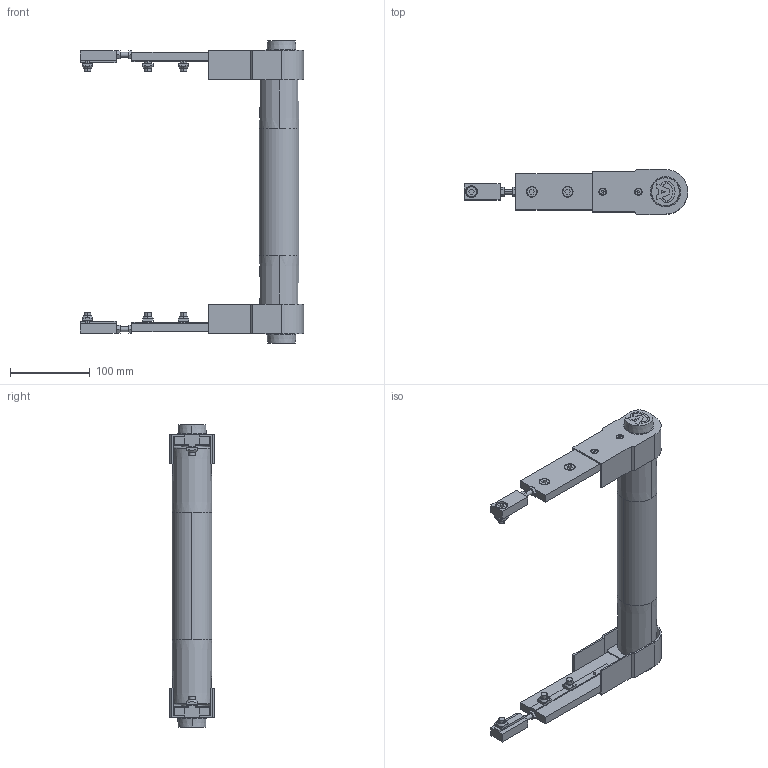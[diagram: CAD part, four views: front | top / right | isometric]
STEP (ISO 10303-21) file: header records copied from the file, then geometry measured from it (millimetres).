
FILE_DESCRIPTION (( 'STEP AP203' ), '1' );
FILE_NAME ('084.050.KIS.300.STEP', '2019-07-29T10:20:39', ( '' ), ( '' ), 'SwSTEP 2.0', 'SolidWorks 2018', '' );
FILE_SCHEMA (( 'CONFIG_CONTROL_DESIGN' ));
Length unit declared in the file: millimetre
Products named in the file (11): 084.802.008; 084.302.000 DADI ALUSIC 13x13_084.302.004; 084.050.KIS.300; 084.810.001; VITI TSEI UNI 5933_M4x10 UNI 5933; 084.811.004; 084.802.017_084.802.017; 084.301.000 VITI ALUSIC_084.301.003; 084.802.023_084.802.023; 084.815.105_Default<A macchina>; 084.807.002_084.807.002
Assembly tree (29 placements, depth 2):
  084.050.KIS.300
    084.802.023_084.802.023  x2
    084.807.002_084.807.002  x2
    084.811.004  x2
    084.802.017_084.802.017  x2
    084.815.105_Default<A macchina>
    084.810.001  x2
    084.802.008  x2
    084.301.000 VITI ALUSIC_084.301.003  x6
    084.302.000 DADI ALUSIC 13x13_084.302.004  x6
    VITI TSEI UNI 5933_M4x10 UNI 5933  x4
Bounding box: 281 x 56 x 380 mm (x, y, z)
Volume: 559928.9 mm3; surface area: 337376.3 mm2
Topology: 35 solids, 37 shells, 892 faces, 2204 edges, 1428 vertices
Faces by surface type: plane 446, cylinder 250, cone 92, torus 80, bspline 16, sphere 8
Entity records: 14237 total; most frequent: CARTESIAN_POINT 2444, DIRECTION 2252, ORIENTED_EDGE 2024, EDGE_CURVE 1012, AXIS2_PLACEMENT_3D 853, VERTEX_POINT 661, VECTOR 546, LINE 546
